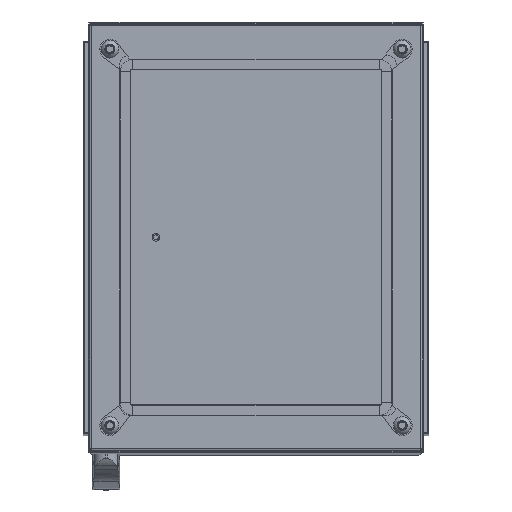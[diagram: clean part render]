
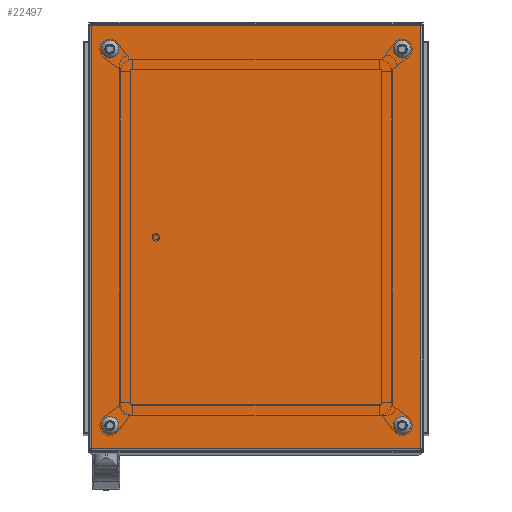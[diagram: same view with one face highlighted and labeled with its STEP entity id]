
A CAD part, top view. The second image highlights one B-rep face of the part: STEP entity #22497.
In plain terms, the highlighted planar face has unit normal (0, 0, 1).
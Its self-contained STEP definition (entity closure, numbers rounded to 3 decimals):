
#1189=CIRCLE('',#24265,6.);
#1190=CIRCLE('',#24266,6.);
#1191=CIRCLE('',#24267,6.);
#1192=CIRCLE('',#24268,6.);
#4665=ORIENTED_EDGE('',*,*,#9787,.F.);
#4666=ORIENTED_EDGE('',*,*,#9788,.F.);
#4667=ORIENTED_EDGE('',*,*,#9789,.F.);
#4668=ORIENTED_EDGE('',*,*,#9790,.F.);
#4669=ORIENTED_EDGE('',*,*,#9776,.T.);
#4670=ORIENTED_EDGE('',*,*,#9784,.T.);
#4671=ORIENTED_EDGE('',*,*,#9747,.F.);
#4672=ORIENTED_EDGE('',*,*,#9791,.F.);
#9747=EDGE_CURVE('',#12543,#12544,#14771,.T.);
#9776=EDGE_CURVE('',#12565,#12564,#14777,.T.);
#9784=EDGE_CURVE('',#12564,#12544,#14782,.T.);
#9787=EDGE_CURVE('',#12566,#12566,#1189,.T.);
#9788=EDGE_CURVE('',#12567,#12567,#1190,.T.);
#9789=EDGE_CURVE('',#12568,#12568,#1191,.T.);
#9790=EDGE_CURVE('',#12569,#12569,#1192,.T.);
#9791=EDGE_CURVE('',#12565,#12543,#14785,.T.);
#12543=VERTEX_POINT('',#35513);
#12544=VERTEX_POINT('',#35515);
#12564=VERTEX_POINT('',#35589);
#12565=VERTEX_POINT('',#35591);
#12566=VERTEX_POINT('',#35608);
#12567=VERTEX_POINT('',#35610);
#12568=VERTEX_POINT('',#35612);
#12569=VERTEX_POINT('',#35614);
#14771=LINE('',#35514,#16760);
#14777=LINE('',#35590,#16766);
#14782=LINE('',#35602,#16771);
#14785=LINE('',#35615,#16774);
#16760=VECTOR('',#28535,1000.);
#16766=VECTOR('',#28589,1000.);
#16771=VECTOR('',#28606,1000.);
#16774=VECTOR('',#28621,1000.);
#18447=EDGE_LOOP('',(#4665));
#18448=EDGE_LOOP('',(#4666));
#18449=EDGE_LOOP('',(#4667));
#18450=EDGE_LOOP('',(#4668));
#18451=EDGE_LOOP('',(#4669,#4670,#4671,#4672));
#20230=FACE_BOUND('',#18447,.T.);
#20231=FACE_BOUND('',#18448,.T.);
#20232=FACE_BOUND('',#18449,.T.);
#20233=FACE_BOUND('',#18450,.T.);
#20234=FACE_BOUND('',#18451,.T.);
#21670=PLANE('',#24264);
#22497=ADVANCED_FACE('',(#20230,#20231,#20232,#20233,#20234),#21670,.T.);
#24264=AXIS2_PLACEMENT_3D('',#35606,#28611,#28612);
#24265=AXIS2_PLACEMENT_3D('',#35607,#28613,#28614);
#24266=AXIS2_PLACEMENT_3D('',#35609,#28615,#28616);
#24267=AXIS2_PLACEMENT_3D('',#35611,#28617,#28618);
#24268=AXIS2_PLACEMENT_3D('',#35613,#28619,#28620);
#28535=DIRECTION('',(-1.,0.,0.));
#28589=DIRECTION('',(-1.,0.,0.));
#28606=DIRECTION('',(0.,-1.,0.));
#28611=DIRECTION('',(0.,0.,1.));
#28612=DIRECTION('',(1.,0.,0.));
#28613=DIRECTION('',(0.,0.,1.));
#28614=DIRECTION('',(1.,0.,0.));
#28615=DIRECTION('',(0.,0.,1.));
#28616=DIRECTION('',(1.,0.,0.));
#28617=DIRECTION('',(0.,0.,1.));
#28618=DIRECTION('',(1.,0.,0.));
#28619=DIRECTION('',(0.,0.,1.));
#28620=DIRECTION('',(1.,0.,0.));
#28621=DIRECTION('',(0.,-1.,0.));
#35513=CARTESIAN_POINT('',(196.5,-252.5,20.));
#35514=CARTESIAN_POINT('',(200.,-252.5,20.));
#35515=CARTESIAN_POINT('',(-196.5,-252.5,20.));
#35589=CARTESIAN_POINT('',(-196.5,252.5,20.));
#35590=CARTESIAN_POINT('',(200.,252.5,20.));
#35591=CARTESIAN_POINT('',(196.5,252.5,20.));
#35602=CARTESIAN_POINT('',(-196.5,255.5,20.));
#35606=CARTESIAN_POINT('',(-196.5,-252.5,20.));
#35607=CARTESIAN_POINT('',(174.5,-224.5,20.));
#35608=CARTESIAN_POINT('',(180.5,-224.5,20.));
#35609=CARTESIAN_POINT('',(-174.5,224.5,20.));
#35610=CARTESIAN_POINT('',(-168.5,224.5,20.));
#35611=CARTESIAN_POINT('',(174.5,224.5,20.));
#35612=CARTESIAN_POINT('',(180.5,224.5,20.));
#35613=CARTESIAN_POINT('',(-174.5,-224.5,20.));
#35614=CARTESIAN_POINT('',(-168.5,-224.5,20.));
#35615=CARTESIAN_POINT('',(196.5,255.5,20.));
